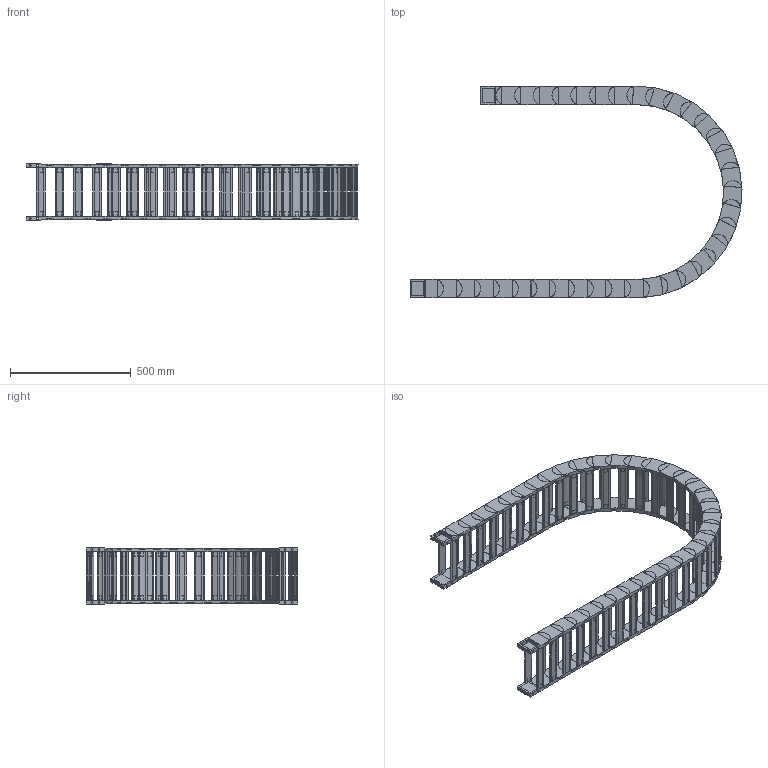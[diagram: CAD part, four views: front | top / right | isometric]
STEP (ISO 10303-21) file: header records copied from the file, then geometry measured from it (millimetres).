
FILE_DESCRIPTION((''),'2;1');
FILE_NAME('HD55-R400-ZPT_ASM','2022-06-17T18:51:52',('admin'),(''),'CREO PARAMETRIC BY PTC INC, 2021164','CREO PARAMETRIC BY PTC INC, 2021164','');
FILE_SCHEMA(('CONFIG_CONTROL_DESIGN','GEOMETRIC_VALIDATION_PROPERTIES_MIM'));
Length unit declared in the file: millimetre
Products named in the file (6): HD-55; 55-500001; HD55_ASM; H55-T1; H55-T2; HD55-R400-ZPT_ASM
Assembly tree (40 placements, depth 3):
  HD55-R400-ZPT_ASM
    HD55_ASM  x34
      HD-55
      55-500001
    H55-T1
    H55-T2
    55-500001  x2
Bounding box: 1373.89 x 875.66 x 232.7 mm (x, y, z)
Volume: 10658377.2 mm3; surface area: 3246398.1 mm2
Topology: 144 solids, 144 shells, 2366 faces, 6070 edges, 4140 vertices
Faces by surface type: plane 1964, cylinder 402
Entity records: 8903 total; most frequent: CARTESIAN_POINT 1316, DIRECTION 1278, ORIENTED_EDGE 1172, EDGE_CURVE 586, AXIS2_PLACEMENT_3D 430, VECTOR 418, LINE 418, VERTEX_POINT 396
